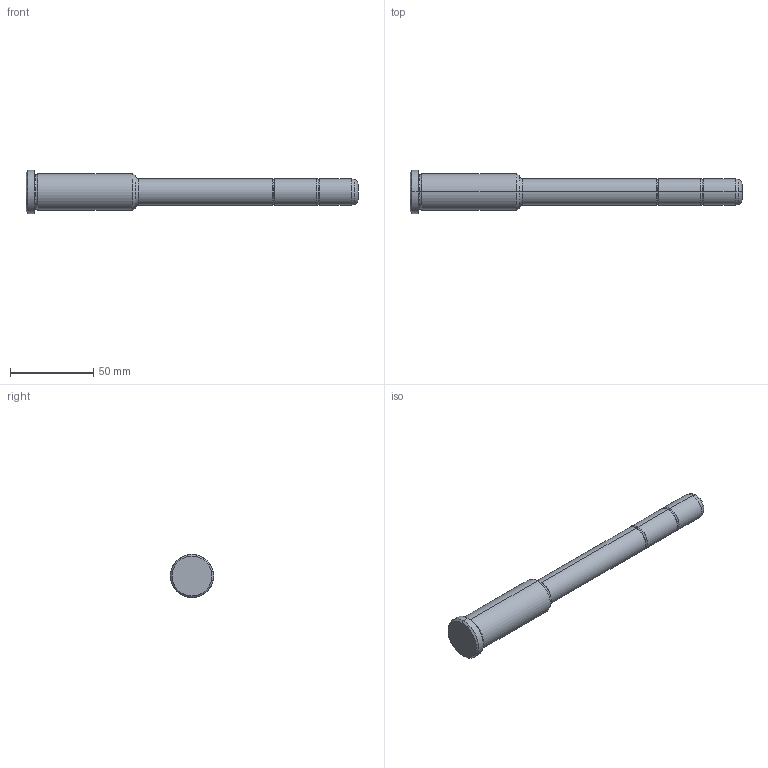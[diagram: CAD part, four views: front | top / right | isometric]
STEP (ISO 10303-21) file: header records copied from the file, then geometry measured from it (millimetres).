
FILE_DESCRIPTION(('CATIA V5 STEP Exchange'),'2;1');
FILE_NAME('C:\Users\Utente\Desktop\IO LAVORO\3D X SITO CF\X SITO\PLASTICA\351\351-16X66X200.stp','2021-08-18T12:27:52+00:00',('none'),('none'),'CATIA Version 5 Release 20 GA (IN-10)','CATIA V5 STEP AP203','none');
FILE_SCHEMA(('CONFIG_CONTROL_DESIGN'));
Length unit declared in the file: millimetre
Products named in the file (1): 351-16X66X200
Bounding box: 200 x 26 x 26 mm (x, y, z)
Volume: 52445.7 mm3; surface area: 12243.2 mm2
Topology: 1 solids, 1 shells, 36 faces, 102 edges, 70 vertices
Faces by surface type: torus 16, cylinder 10, cone 6, plane 4
Entity records: 1292 total; most frequent: CARTESIAN_POINT 321, ORIENTED_EDGE 204, DIRECTION 166, AXIS2_PLACEMENT_3D 115, EDGE_CURVE 102, CIRCLE 78, VERTEX_POINT 70, EDGE_LOOP 38
